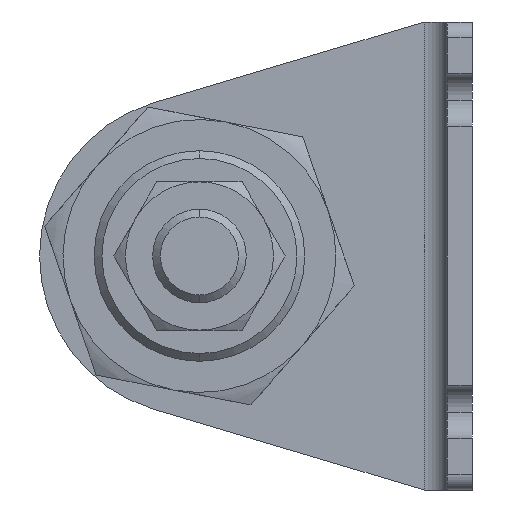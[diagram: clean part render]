
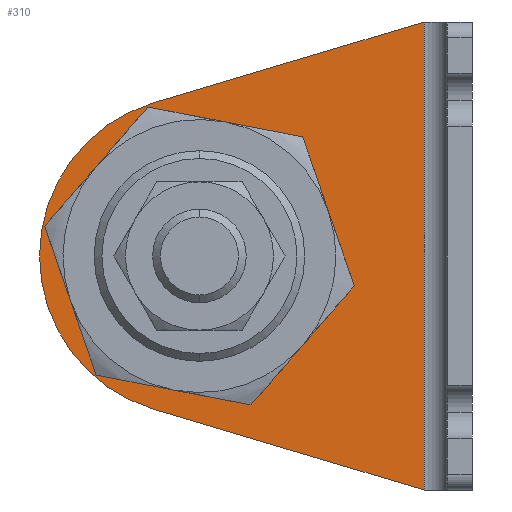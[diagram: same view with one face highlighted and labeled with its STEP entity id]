
A CAD part, left-side view. The second image highlights one B-rep face of the part: STEP entity #310.
In plain terms, the highlighted planar face has unit normal (-1, 0, 0) as drawn and (1, 0, 0) by its records, which use the part's own axes.
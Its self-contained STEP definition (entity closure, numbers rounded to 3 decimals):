
#12 = DIRECTION ( 'NONE',  ( 0., 1., 0. ) ) ;
#13 = ORIENTED_EDGE ( 'NONE', *, *, #3591, .T. ) ;
#68 = ORIENTED_EDGE ( 'NONE', *, *, #1485, .T. ) ;
#120 = CARTESIAN_POINT ( 'NONE',  ( 3.2, 35., -30. ) ) ;
#278 = AXIS2_PLACEMENT_3D ( 'NONE', #2737, #1094, #12 ) ;
#310 = ADVANCED_FACE ( 'NONE', ( #349, #3629 ), #648, .T. ) ;
#349 = FACE_BOUND ( 'NONE', #3475, .T. ) ;
#371 = DIRECTION ( 'NONE',  ( 0., 1., 0. ) ) ;
#388 = CARTESIAN_POINT ( 'NONE',  ( 3.2, 55.5, -30. ) ) ;
#396 = CARTESIAN_POINT ( 'NONE',  ( 3.2, 6.2, -60. ) ) ;
#441 = VECTOR ( 'NONE', #3058, 1000. ) ;
#587 = CARTESIAN_POINT ( 'NONE',  ( 3.2, 40.868, -10.358 ) ) ;
#648 = PLANE ( 'NONE',  #278 ) ;
#678 = VERTEX_POINT ( 'NONE', #3494 ) ;
#680 = VERTEX_POINT ( 'NONE', #3368 ) ;
#686 = VERTEX_POINT ( 'NONE', #388 ) ;
#765 = LINE ( 'NONE', #4259, #1715 ) ;
#811 = ORIENTED_EDGE ( 'NONE', *, *, #2865, .T. ) ;
#819 = VECTOR ( 'NONE', #3999, 1000. ) ;
#826 = DIRECTION ( 'NONE',  ( 0., 1., 0. ) ) ;
#857 = EDGE_CURVE ( 'NONE', #3894, #3884, #3016, .T. ) ;
#972 = DIRECTION ( 'NONE',  ( 0., 0.958, 0.286 ) ) ;
#1015 = CIRCLE ( 'NONE', #3052, 13.5 ) ;
#1067 = CARTESIAN_POINT ( 'NONE',  ( 3.2, 19.903, -4.094 ) ) ;
#1094 = DIRECTION ( 'NONE',  ( 1., 0., 0. ) ) ;
#1134 = DIRECTION ( 'NONE',  ( 1., 0., 0. ) ) ;
#1139 = DIRECTION ( 'NONE',  ( 0., 1., 0. ) ) ;
#1187 = EDGE_CURVE ( 'NONE', #678, #680, #765, .T. ) ;
#1201 = DIRECTION ( 'NONE',  ( 1., 0., 0. ) ) ;
#1334 = AXIS2_PLACEMENT_3D ( 'NONE', #120, #1134, #826 ) ;
#1436 = EDGE_CURVE ( 'NONE', #3410, #2422, #1896, .T. ) ;
#1477 = CARTESIAN_POINT ( 'NONE',  ( 3.2, 35., -30. ) ) ;
#1485 = EDGE_CURVE ( 'NONE', #680, #686, #1608, .T. ) ;
#1608 = CIRCLE ( 'NONE', #1334, 20.5 ) ;
#1715 = VECTOR ( 'NONE', #972, 1000. ) ;
#1808 = ORIENTED_EDGE ( 'NONE', *, *, #857, .F. ) ;
#1875 = CARTESIAN_POINT ( 'NONE',  ( 3.2, 35., -30. ) ) ;
#1896 = LINE ( 'NONE', #1067, #819 ) ;
#2098 = CARTESIAN_POINT ( 'NONE',  ( 3.2, 6.2, 0. ) ) ;
#2288 = AXIS2_PLACEMENT_3D ( 'NONE', #2991, #3660, #371 ) ;
#2320 = ORIENTED_EDGE ( 'NONE', *, *, #1436, .F. ) ;
#2326 = AXIS2_PLACEMENT_3D ( 'NONE', #1875, #1201, #2835 ) ;
#2411 = ORIENTED_EDGE ( 'NONE', *, *, #4049, .F. ) ;
#2422 = VERTEX_POINT ( 'NONE', #587 ) ;
#2499 = DIRECTION ( 'NONE',  ( 1., 0., 0. ) ) ;
#2648 = CARTESIAN_POINT ( 'NONE',  ( 3.2, 48.5, -30. ) ) ;
#2737 = CARTESIAN_POINT ( 'NONE',  ( 3.2, 3.2, -60. ) ) ;
#2835 = DIRECTION ( 'NONE',  ( 0., 1., 0. ) ) ;
#2865 = EDGE_CURVE ( 'NONE', #3410, #678, #2902, .T. ) ;
#2902 = LINE ( 'NONE', #396, #441 ) ;
#2991 = CARTESIAN_POINT ( 'NONE',  ( 3.2, 35., -30. ) ) ;
#3016 = CIRCLE ( 'NONE', #2288, 13.5 ) ;
#3052 = AXIS2_PLACEMENT_3D ( 'NONE', #1477, #2499, #1139 ) ;
#3058 = DIRECTION ( 'NONE',  ( 0., 0., -1. ) ) ;
#3359 = EDGE_LOOP ( 'NONE', ( #3674, #68, #13, #2320, #811 ) ) ;
#3368 = CARTESIAN_POINT ( 'NONE',  ( 3.2, 40.868, -49.642 ) ) ;
#3410 = VERTEX_POINT ( 'NONE', #2098 ) ;
#3475 = EDGE_LOOP ( 'NONE', ( #1808, #2411 ) ) ;
#3494 = CARTESIAN_POINT ( 'NONE',  ( 3.2, 6.2, -60. ) ) ;
#3591 = EDGE_CURVE ( 'NONE', #686, #2422, #3997, .T. ) ;
#3629 = FACE_OUTER_BOUND ( 'NONE', #3359, .T. ) ;
#3660 = DIRECTION ( 'NONE',  ( 1., 0., 0. ) ) ;
#3674 = ORIENTED_EDGE ( 'NONE', *, *, #1187, .T. ) ;
#3884 = VERTEX_POINT ( 'NONE', #3962 ) ;
#3894 = VERTEX_POINT ( 'NONE', #2648 ) ;
#3962 = CARTESIAN_POINT ( 'NONE',  ( 3.2, 21.5, -30. ) ) ;
#3997 = CIRCLE ( 'NONE', #2326, 20.5 ) ;
#3999 = DIRECTION ( 'NONE',  ( 0., 0.958, -0.286 ) ) ;
#4049 = EDGE_CURVE ( 'NONE', #3884, #3894, #1015, .T. ) ;
#4259 = CARTESIAN_POINT ( 'NONE',  ( 3.2, 3.446, -60.823 ) ) ;
